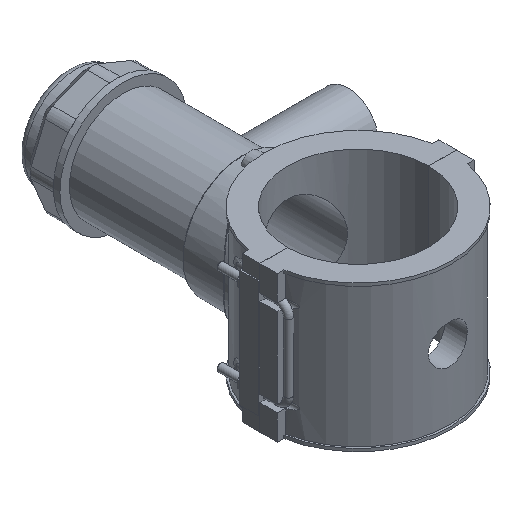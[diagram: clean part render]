
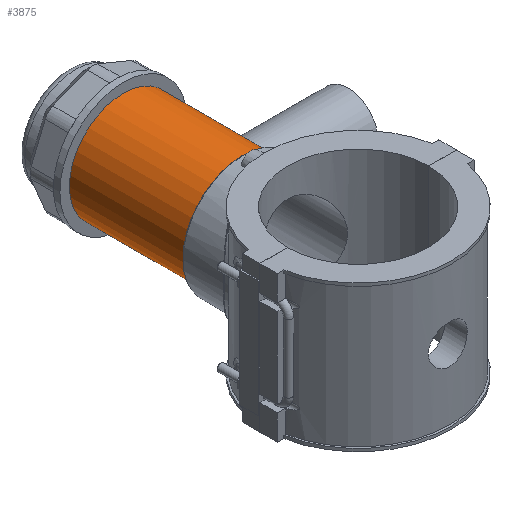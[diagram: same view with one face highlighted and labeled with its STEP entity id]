
A CAD part, isometric view. The second image highlights one B-rep face of the part: STEP entity #3875.
In plain terms, the highlighted cylindrical face has radius 43.643 mm (diameter 87.287 mm), a full revolution.
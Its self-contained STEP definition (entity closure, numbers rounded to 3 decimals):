
#57=FACE_BOUND('',#568,.T.);
#85=B_SPLINE_CURVE_WITH_KNOTS('',3,(#5829,#5830,#5831,#5832,#5833,#5834,
#5835,#5836,#5837,#5838,#5839,#5840,#5841,#5842,#5843,#5844,#5845,#5846),
 .UNSPECIFIED.,.F.,.F.,(4,2,2,2,2,2,2,2,4),(0.,0.466,0.931,
1.397,1.862,2.326,2.79,3.253,
3.717),.UNSPECIFIED.);
#86=B_SPLINE_CURVE_WITH_KNOTS('',3,(#5847,#5848,#5849,#5850,#5851,#5852,
#5853,#5854,#5855,#5856,#5857,#5858,#5859,#5860,#5861,#5862,#5863,#5864,
#5865,#5866,#5867,#5868,#5869,#5870,#5871,#5872,#5873,#5874,#5875,#5876,
#5877,#5878,#5879,#5880,#5881,#5882,#5883,#5884,#5885,#5886,#5887,#5888,
#5889,#5890,#5891,#5892,#5893,#5894,#5895,#5896),.UNSPECIFIED.,.F.,.F.,
(4,2,2,2,2,2,2,2,2,2,2,2,2,2,2,2,2,2,2,2,2,2,2,2,4),(3.717,4.18,
4.644,5.108,5.571,6.037,6.503,
6.968,7.434,7.899,8.365,8.831,
9.296,9.76,10.223,10.687,11.151,
11.614,12.078,12.541,13.005,13.471,
13.936,14.402,14.867),.UNSPECIFIED.);
#347=FACE_OUTER_BOUND('',#567,.T.);
#567=EDGE_LOOP('',(#2858,#2859,#2860,#2861,#2862,#2863));
#568=EDGE_LOOP('',(#2864,#2865));
#798=CIRCLE('',#4156,43.643);
#799=CIRCLE('',#4157,43.643);
#812=CIRCLE('',#4184,43.643);
#813=CIRCLE('',#4185,43.643);
#987=LINE('',#6146,#1326);
#1326=VECTOR('',#4773,43.643);
#1624=VERTEX_POINT('',#5826);
#1625=VERTEX_POINT('',#5828);
#1687=VERTEX_POINT('',#6087);
#1688=VERTEX_POINT('',#6088);
#1702=VERTEX_POINT('',#6142);
#1703=VERTEX_POINT('',#6143);
#2011=EDGE_CURVE('',#1625,#1624,#85,.T.);
#2012=EDGE_CURVE('',#1624,#1625,#86,.T.);
#2107=EDGE_CURVE('',#1687,#1688,#798,.T.);
#2108=EDGE_CURVE('',#1688,#1687,#799,.T.);
#2133=EDGE_CURVE('',#1702,#1703,#812,.T.);
#2134=EDGE_CURVE('',#1703,#1702,#813,.T.);
#2135=EDGE_CURVE('',#1703,#1688,#987,.T.);
#2858=ORIENTED_EDGE('',*,*,#2133,.F.);
#2859=ORIENTED_EDGE('',*,*,#2134,.F.);
#2860=ORIENTED_EDGE('',*,*,#2135,.T.);
#2861=ORIENTED_EDGE('',*,*,#2108,.T.);
#2862=ORIENTED_EDGE('',*,*,#2107,.T.);
#2863=ORIENTED_EDGE('',*,*,#2135,.F.);
#2864=ORIENTED_EDGE('',*,*,#2011,.T.);
#2865=ORIENTED_EDGE('',*,*,#2012,.T.);
#3776=CYLINDRICAL_SURFACE('',#4183,43.643);
#3875=ADVANCED_FACE('',(#347,#57),#3776,.T.);
#4156=AXIS2_PLACEMENT_3D('',#6089,#4701,#4702);
#4157=AXIS2_PLACEMENT_3D('',#6090,#4703,#4704);
#4183=AXIS2_PLACEMENT_3D('',#6141,#4767,#4768);
#4184=AXIS2_PLACEMENT_3D('',#6144,#4769,#4770);
#4185=AXIS2_PLACEMENT_3D('',#6145,#4771,#4772);
#4701=DIRECTION('center_axis',(0.,1.,0.));
#4702=DIRECTION('ref_axis',(1.,0.,0.));
#4703=DIRECTION('center_axis',(0.,1.,0.));
#4704=DIRECTION('ref_axis',(1.,0.,0.));
#4767=DIRECTION('center_axis',(0.,1.,0.));
#4768=DIRECTION('ref_axis',(0.,0.,1.));
#4769=DIRECTION('center_axis',(0.,1.,0.));
#4770=DIRECTION('ref_axis',(1.,0.,0.));
#4771=DIRECTION('center_axis',(0.,1.,0.));
#4772=DIRECTION('ref_axis',(1.,0.,0.));
#4773=DIRECTION('',(0.,-1.,0.));
#5826=CARTESIAN_POINT('',(43.643,98.024,0.));
#5828=CARTESIAN_POINT('',(36.419,122.074,-24.05));
#5829=CARTESIAN_POINT('Ctrl Pts',(36.419,122.074,-24.05));
#5830=CARTESIAN_POINT('Ctrl Pts',(36.419,120.522,-24.05));
#5831=CARTESIAN_POINT('Ctrl Pts',(36.521,118.932,-23.897));
#5832=CARTESIAN_POINT('Ctrl Pts',(36.923,115.796,-23.271));
#5833=CARTESIAN_POINT('Ctrl Pts',(37.222,114.25,-22.798));
#5834=CARTESIAN_POINT('Ctrl Pts',(37.952,111.302,-21.562));
#5835=CARTESIAN_POINT('Ctrl Pts',(38.381,109.898,-20.799));
#5836=CARTESIAN_POINT('Ctrl Pts',(39.28,107.307,-19.047));
#5837=CARTESIAN_POINT('Ctrl Pts',(39.749,106.119,-18.057));
#5838=CARTESIAN_POINT('Ctrl Pts',(40.637,104.021,-15.959));
#5839=CARTESIAN_POINT('Ctrl Pts',(41.089,103.033,-14.774));
#5840=CARTESIAN_POINT('Ctrl Pts',(41.931,101.279,-12.182));
#5841=CARTESIAN_POINT('Ctrl Pts',(42.319,100.513,-10.775));
#5842=CARTESIAN_POINT('Ctrl Pts',(42.963,99.275,-7.82));
#5843=CARTESIAN_POINT('Ctrl Pts',(43.219,98.801,-6.271));
#5844=CARTESIAN_POINT('Ctrl Pts',(43.559,98.175,-3.133));
#5845=CARTESIAN_POINT('Ctrl Pts',(43.643,98.024,-1.545));
#5846=CARTESIAN_POINT('Ctrl Pts',(43.643,98.024,0.));
#5847=CARTESIAN_POINT('Ctrl Pts',(43.643,98.024,0.));
#5848=CARTESIAN_POINT('Ctrl Pts',(43.643,98.024,1.545));
#5849=CARTESIAN_POINT('Ctrl Pts',(43.559,98.175,3.133));
#5850=CARTESIAN_POINT('Ctrl Pts',(43.219,98.801,6.271));
#5851=CARTESIAN_POINT('Ctrl Pts',(42.963,99.275,7.82));
#5852=CARTESIAN_POINT('Ctrl Pts',(42.319,100.513,10.775));
#5853=CARTESIAN_POINT('Ctrl Pts',(41.931,101.279,12.182));
#5854=CARTESIAN_POINT('Ctrl Pts',(41.089,103.033,14.774));
#5855=CARTESIAN_POINT('Ctrl Pts',(40.637,104.021,15.959));
#5856=CARTESIAN_POINT('Ctrl Pts',(39.749,106.119,18.057));
#5857=CARTESIAN_POINT('Ctrl Pts',(39.28,107.307,19.047));
#5858=CARTESIAN_POINT('Ctrl Pts',(38.381,109.898,20.799));
#5859=CARTESIAN_POINT('Ctrl Pts',(37.952,111.302,21.562));
#5860=CARTESIAN_POINT('Ctrl Pts',(37.222,114.25,22.798));
#5861=CARTESIAN_POINT('Ctrl Pts',(36.923,115.796,23.271));
#5862=CARTESIAN_POINT('Ctrl Pts',(36.521,118.932,23.897));
#5863=CARTESIAN_POINT('Ctrl Pts',(36.419,120.522,24.05));
#5864=CARTESIAN_POINT('Ctrl Pts',(36.419,123.626,24.05));
#5865=CARTESIAN_POINT('Ctrl Pts',(36.521,125.216,23.897));
#5866=CARTESIAN_POINT('Ctrl Pts',(36.923,128.352,23.271));
#5867=CARTESIAN_POINT('Ctrl Pts',(37.222,129.898,22.798));
#5868=CARTESIAN_POINT('Ctrl Pts',(37.952,132.846,21.562));
#5869=CARTESIAN_POINT('Ctrl Pts',(38.381,134.25,20.799));
#5870=CARTESIAN_POINT('Ctrl Pts',(39.28,136.841,19.047));
#5871=CARTESIAN_POINT('Ctrl Pts',(39.749,138.029,18.057));
#5872=CARTESIAN_POINT('Ctrl Pts',(40.637,140.127,15.959));
#5873=CARTESIAN_POINT('Ctrl Pts',(41.089,141.115,14.774));
#5874=CARTESIAN_POINT('Ctrl Pts',(41.931,142.869,12.182));
#5875=CARTESIAN_POINT('Ctrl Pts',(42.319,143.635,10.775));
#5876=CARTESIAN_POINT('Ctrl Pts',(42.963,144.873,7.82));
#5877=CARTESIAN_POINT('Ctrl Pts',(43.219,145.347,6.271));
#5878=CARTESIAN_POINT('Ctrl Pts',(43.559,145.973,3.133));
#5879=CARTESIAN_POINT('Ctrl Pts',(43.643,146.124,1.545));
#5880=CARTESIAN_POINT('Ctrl Pts',(43.643,146.124,-1.545));
#5881=CARTESIAN_POINT('Ctrl Pts',(43.559,145.973,-3.133));
#5882=CARTESIAN_POINT('Ctrl Pts',(43.219,145.347,-6.271));
#5883=CARTESIAN_POINT('Ctrl Pts',(42.963,144.873,-7.82));
#5884=CARTESIAN_POINT('Ctrl Pts',(42.319,143.635,-10.775));
#5885=CARTESIAN_POINT('Ctrl Pts',(41.931,142.869,-12.182));
#5886=CARTESIAN_POINT('Ctrl Pts',(41.089,141.115,-14.774));
#5887=CARTESIAN_POINT('Ctrl Pts',(40.637,140.127,-15.959));
#5888=CARTESIAN_POINT('Ctrl Pts',(39.749,138.029,-18.057));
#5889=CARTESIAN_POINT('Ctrl Pts',(39.28,136.841,-19.047));
#5890=CARTESIAN_POINT('Ctrl Pts',(38.381,134.25,-20.799));
#5891=CARTESIAN_POINT('Ctrl Pts',(37.952,132.846,-21.562));
#5892=CARTESIAN_POINT('Ctrl Pts',(37.222,129.898,-22.798));
#5893=CARTESIAN_POINT('Ctrl Pts',(36.923,128.352,-23.271));
#5894=CARTESIAN_POINT('Ctrl Pts',(36.521,125.216,-23.897));
#5895=CARTESIAN_POINT('Ctrl Pts',(36.419,123.626,-24.05));
#5896=CARTESIAN_POINT('Ctrl Pts',(36.419,122.074,-24.05));
#6087=CARTESIAN_POINT('',(0.,93.927,43.643));
#6088=CARTESIAN_POINT('',(0.,93.927,-43.643));
#6089=CARTESIAN_POINT('Origin',(0.,93.927,0.));
#6090=CARTESIAN_POINT('Origin',(0.,93.927,0.));
#6141=CARTESIAN_POINT('Origin',(0.,141.878,0.));
#6142=CARTESIAN_POINT('',(0.,189.829,43.643));
#6143=CARTESIAN_POINT('',(0.,189.829,-43.643));
#6144=CARTESIAN_POINT('Origin',(0.,189.829,0.));
#6145=CARTESIAN_POINT('Origin',(0.,189.829,0.));
#6146=CARTESIAN_POINT('',(0.,141.878,-43.643));
